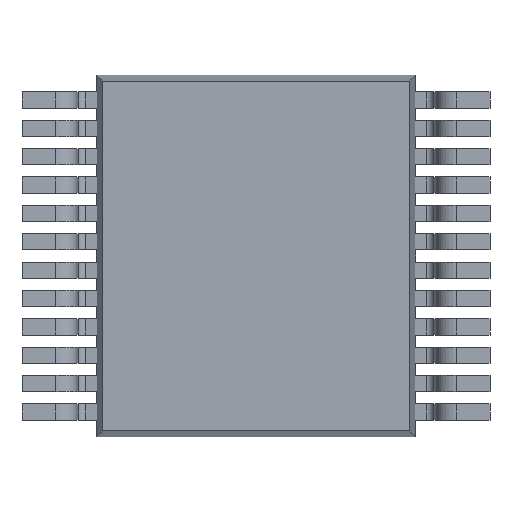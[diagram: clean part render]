
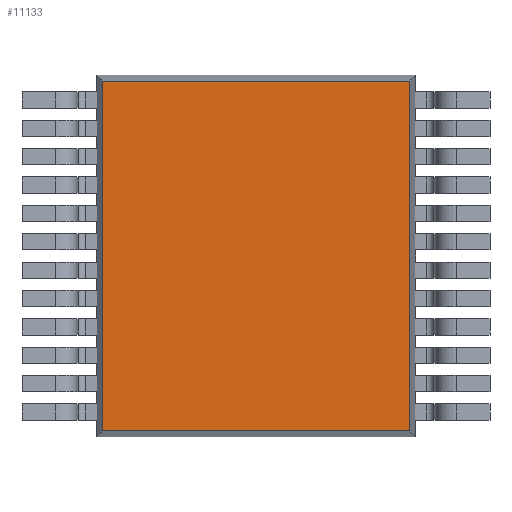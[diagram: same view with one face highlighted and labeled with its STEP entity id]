
A CAD part, front view. The second image highlights one B-rep face of the part: STEP entity #11133.
In plain terms, the highlighted planar face has unit normal (0, -1, 0).
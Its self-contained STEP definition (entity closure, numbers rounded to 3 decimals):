
#264 = AXIS2_PLACEMENT_3D ( 'NONE', #3270, #3282, #3283 ) ;
#2991 = FACE_OUTER_BOUND ( 'NONE', #13105, .T. ) ;
#3269 = PLANE ( 'NONE',  #264 ) ;
#3270 = CARTESIAN_POINT ( 'NONE',  ( 0., 0.1, 0. ) ) ;
#3282 = DIRECTION ( 'NONE',  ( 0., 1., 0. ) ) ;
#3283 = DIRECTION ( 'NONE',  ( 0., 0., 1. ) ) ;
#8401 = EDGE_CURVE ( 'NONE', #9612, #9611, #13193, .T. ) ;
#8405 = EDGE_CURVE ( 'NONE', #9602, #9595, #13195, .T. ) ;
#8498 = EDGE_CURVE ( 'NONE', #9611, #9602, #13382, .T. ) ;
#8499 = EDGE_CURVE ( 'NONE', #9595, #9612, #13384, .T. ) ;
#9595 = VERTEX_POINT ( 'NONE', #10422 ) ;
#9602 = VERTEX_POINT ( 'NONE', #10429 ) ;
#9611 = VERTEX_POINT ( 'NONE', #10438 ) ;
#9612 = VERTEX_POINT ( 'NONE', #10439 ) ;
#10422 = CARTESIAN_POINT ( 'NONE',  ( 2.166, 0.1, 2.466 ) ) ;
#10429 = CARTESIAN_POINT ( 'NONE',  ( 2.166, 0.1, -2.466 ) ) ;
#10438 = CARTESIAN_POINT ( 'NONE',  ( -2.166, 0.1, -2.466 ) ) ;
#10439 = CARTESIAN_POINT ( 'NONE',  ( -2.166, 0.1, 2.466 ) ) ;
#11133 = ADVANCED_FACE ( 'NONE', ( #2991 ), #3269, .F. ) ;
#13105 = EDGE_LOOP ( 'NONE', ( #14706, #14705, #14704, #14703 ) ) ;
#13193 = LINE ( 'NONE', #14329, #13196 ) ;
#13195 = LINE ( 'NONE', #14332, #13204 ) ;
#13196 = VECTOR ( 'NONE', #14327, 1000. ) ;
#13204 = VECTOR ( 'NONE', #14320, 1000. ) ;
#13382 = LINE ( 'NONE', #14130, #13385 ) ;
#13384 = LINE ( 'NONE', #14128, #13387 ) ;
#13385 = VECTOR ( 'NONE', #14129, 1000. ) ;
#13387 = VECTOR ( 'NONE', #14127, 1000. ) ;
#14127 = DIRECTION ( 'NONE',  ( -1., 0., 0. ) ) ;
#14128 = CARTESIAN_POINT ( 'NONE',  ( 2.25, 0.1, 2.466 ) ) ;
#14129 = DIRECTION ( 'NONE',  ( 1., 0., 0. ) ) ;
#14130 = CARTESIAN_POINT ( 'NONE',  ( 2.25, 0.1, -2.466 ) ) ;
#14320 = DIRECTION ( 'NONE',  ( 0., 0., 1. ) ) ;
#14327 = DIRECTION ( 'NONE',  ( 0., 0., -1. ) ) ;
#14329 = CARTESIAN_POINT ( 'NONE',  ( -2.166, 0.1, 2.55 ) ) ;
#14332 = CARTESIAN_POINT ( 'NONE',  ( 2.166, 0.1, 2.55 ) ) ;
#14703 = ORIENTED_EDGE ( 'NONE', *, *, #8499, .T. ) ;
#14704 = ORIENTED_EDGE ( 'NONE', *, *, #8405, .T. ) ;
#14705 = ORIENTED_EDGE ( 'NONE', *, *, #8498, .T. ) ;
#14706 = ORIENTED_EDGE ( 'NONE', *, *, #8401, .T. ) ;
